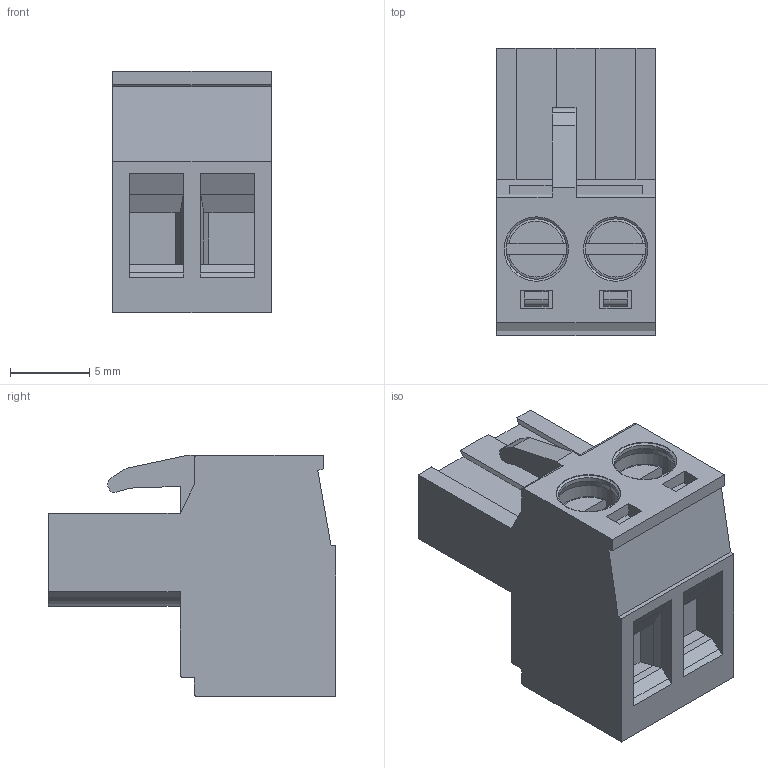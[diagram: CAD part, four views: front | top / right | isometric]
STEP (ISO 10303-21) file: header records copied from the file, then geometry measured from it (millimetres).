
FILE_DESCRIPTION(('FreeCAD Model'),'2;1');
FILE_NAME('Open CASCADE Shape Model','2023-04-26T11:31:39',('Author'),( ''),'Open CASCADE STEP processor 7.6','FreeCAD','Unknown');
FILE_SCHEMA(('AUTOMOTIVE_DESIGN { 1 0 10303 214 1 1 1 1 }'));
Length unit declared in the file: millimetre
Products named in the file (1): BR1702-F
Bounding box: 10 x 18.1 x 15.2 mm (x, y, z)
Volume: 1679.6 mm3; surface area: 1401 mm2
Topology: 1 solids, 1 shells, 202 faces, 497 edges, 314 vertices
Faces by surface type: plane 125, cylinder 49, cone 16, torus 12
Entity records: 12934 total; most frequent: CARTESIAN_POINT 2712, DIRECTION 1967, LINE 1267, VECTOR 1267, ORIENTED_EDGE 994, PCURVE 994, DEFINITIONAL_REPRESENTATION 994, EDGE_CURVE 497
